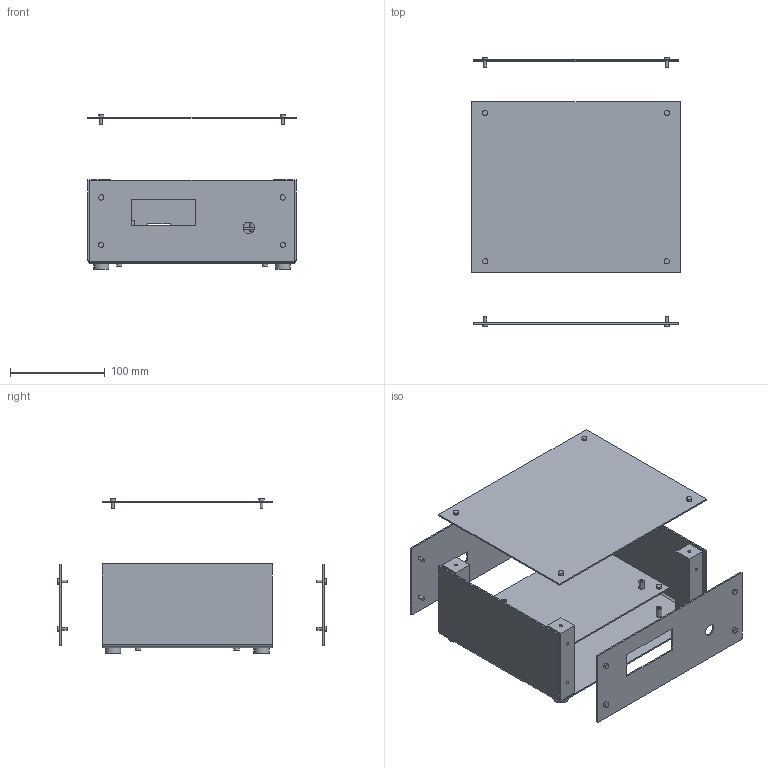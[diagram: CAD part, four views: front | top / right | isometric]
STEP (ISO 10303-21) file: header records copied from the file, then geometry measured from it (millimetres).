
FILE_DESCRIPTION(('Open CASCADE Model'),'2;1');
FILE_NAME('Open CASCADE Shape Model','2026-10-28T07:21:37',('Author'),( 'Open CASCADE'),'Open CASCADE STEP processor 7.8','Open CASCADE 7.8' ,'Unknown');
FILE_SCHEMA(('AUTOMOTIVE_DESIGN { 1 0 10303 214 1 1 1 1 }'));
Length unit declared in the file: millimetre
Products named in the file (50): instrument-enclosure-exploded-compact; u-shell; front-panel; rear-panel; lid; electronics-tray; corner-post-1; corner-post-2; corner-post-3; corner-post-4; tray-spacer-1; tray-spacer-2; tray-spacer-3; tray-spacer-4; pcb-spacer-1; pcb-spacer-2; pcb-spacer-3; pcb-spacer-4; lid-screw-1; base-screw-1; panel-screw-1-1; panel-screw-1-2; lid-screw-2; base-screw-2; panel-screw-2-1; panel-screw-2-2; lid-screw-3; base-screw-3; panel-screw-3-1; panel-screw-3-2; lid-screw-4; base-screw-4; panel-screw-4-1; panel-screw-4-2; tray-screw-1; tray-base-screw-1; tray-screw-2; tray-base-screw-2; tray-screw-3; tray-base-screw-3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
Assembly tree (49 placements, depth 2):
  instrument-enclosure-exploded-compact
    u-shell
    front-panel
    rear-panel
    lid
    electronics-tray
    corner-post-1
    corner-post-2
    corner-post-3
    corner-post-4
    tray-spacer-1
    tray-spacer-2
    tray-spacer-3
    tray-spacer-4
    pcb-spacer-1
    pcb-spacer-2
    pcb-spacer-3
    pcb-spacer-4
    lid-screw-1
    base-screw-1
    panel-screw-1-1
    panel-screw-1-2
    lid-screw-2
    base-screw-2
    panel-screw-2-1
    panel-screw-2-2
    lid-screw-3
    base-screw-3
    panel-screw-3-1
    panel-screw-3-2
    lid-screw-4
    base-screw-4
    panel-screw-4-1
    panel-screw-4-2
    tray-screw-1
    tray-base-screw-1
    tray-screw-2
    tray-base-screw-2
    tray-screw-3
    tray-base-screw-3
    tray-screw-4
    tray-base-screw-4
    pcb-spacer-screw-1
    pcb-spacer-screw-2
    pcb-spacer-screw-3
    pcb-spacer-screw-4
    foot-1
    foot-2
    foot-3
    foot-4
Bounding box: 220 x 285 x 163.5 mm (x, y, z)
Volume: 394791.5 mm3; surface area: 378989 mm2
Topology: 49 solids, 49 shells, 324 faces, 546 edges, 364 vertices
Faces by surface type: plane 190, cylinder 134
Full cylindrical faces by diameter (mm): 3 x52, 3.4 x28, 5.5 x28, 6 x12, 12 x1, 16 x5
Entity records: 16374 total; most frequent: CARTESIAN_POINT 2784, DIRECTION 2586, LINE 1102, VECTOR 1102, ORIENTED_EDGE 1092, PCURVE 1092, DEFINITIONAL_REPRESENTATION 1092, AXIS2_PLACEMENT_3D 642
